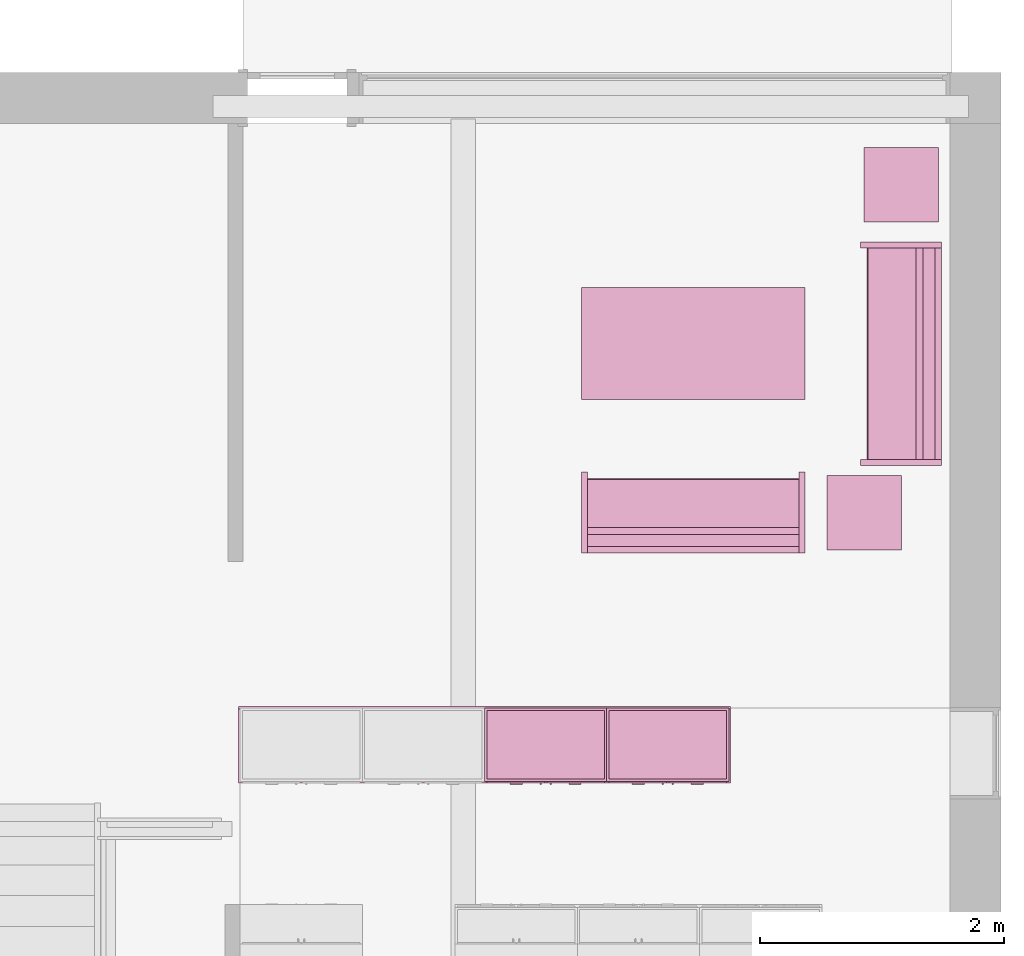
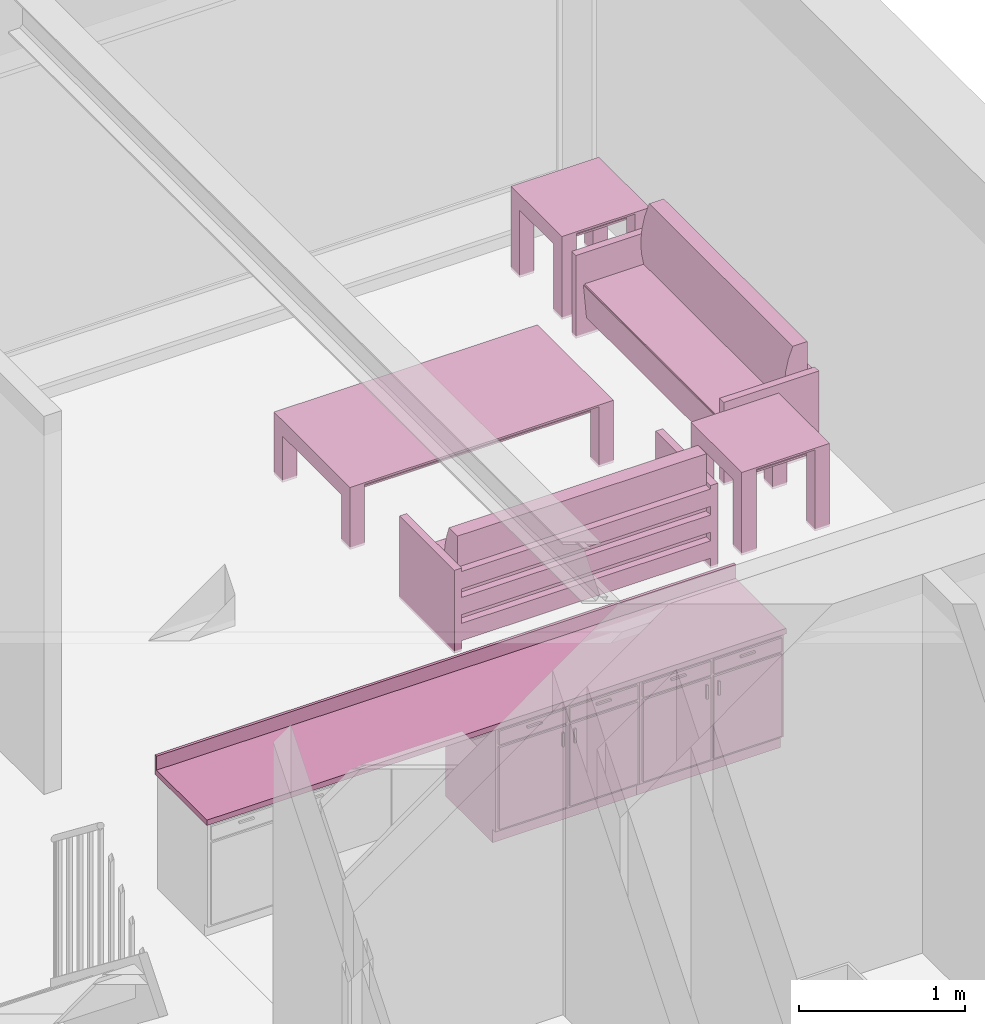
# One storey, part 17 of 18: 8 furnishings.
"""IFC4 building model written with IfcOpenShell, lengths in metres."""

from ifc_helpers import new_model, entity, si_unit, converted_unit, frame, origin, origin_2d_with_axis, place, context, project, spatial, polyline, rectangle, outline, extrude, face_set, surface_model, source, transform, mapped, type_object, type_shapes, element, save


model = new_model("IFC4")

# Units and contexts
model_context = context("Model", 3, precision=1e-09, world=origin())
plan_context = context("Plan", 3, precision=1e-09, world=origin())
ifc_project = project(units=[si_unit("LENGTHUNIT", "METRE"), si_unit("AREAUNIT", "SQUARE_METRE"), si_unit("VOLUMEUNIT", "CUBIC_METRE"), converted_unit("PLANEANGLEUNIT", "DEGREE", entity("IfcRatioMeasure", 0.01745329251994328), si_unit("PLANEANGLEUNIT", "RADIAN"), dimensions=[0, 0, 0, 0, 0, 0, 0]), si_unit("TIMEUNIT", "SECOND")], contexts=[model_context, plan_context])

# Site, building, storey, space
site_placement = place(None, origin())
site = spatial("IfcSite", under=ifc_project, at=site_placement, Name="Default", CompositionType="ELEMENT")
building_placement = place(site_placement, origin())
building = spatial("IfcBuilding", under=site, at=building_placement, CompositionType="ELEMENT")
storey_placement = place(building_placement, origin())
storey = spatial("IfcBuildingStorey", under=building, at=storey_placement, Name="Level 1", CompositionType="ELEMENT", Elevation=0.0)
space_1_placement = place(storey_placement, origin())
space_1 = spatial("IfcSpace", under=storey, at=space_1_placement, Name="B103", CompositionType="ELEMENT", PredefinedType="SPACE")

# Furnishings
furniture_type_1 = type_object("IfcFurnitureType", Name="1000mm", AssemblyPlace="NOTDEFINED")
shared_shape_1 = source(origin(), model_context, "Body", "SurfaceModel", [
    surface_model("IfcFaceBasedSurfaceModel", [(0.9809499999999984, 0.04445000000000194, 0.8600000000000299), (0.9809499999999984, 0.04445000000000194, 0.0999999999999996), (0.01905000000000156, 0.04445000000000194, 0.0999999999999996), (0.01905000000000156, 0.04445000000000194, 0.8600000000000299), (1.0, 0.02540000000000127, 0.8600000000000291), (0.0, 0.02540000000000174, 0.8600000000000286), (1.0, 0.02540000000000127, 0.0999999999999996), (0.0, 0.02540000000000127, 0.09999999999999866), (0.01905000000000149, 0.606349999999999, 0.8600000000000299), (0.01905000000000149, 0.606349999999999, 0.09999999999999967), (0.01905000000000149, 0.06040000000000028, 0.0999999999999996), (0.0, 0.6253999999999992, 0.8600000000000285), (0.0, 0.6254000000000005, 0.0), (0.0, 0.06040000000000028, 0.0), (0.0, 0.06040000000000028, 0.09999999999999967), (0.9809499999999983, 0.6063499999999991, 0.8600000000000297), (0.9809499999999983, 0.6063499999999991, 0.09999999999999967), (1.0, 0.6253999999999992, 0.8600000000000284), (1.0, 0.6253999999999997, 0.0), (0.9809499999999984, 0.06040000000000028, 0.09999999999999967), (1.0, 0.06040000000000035, 0.09999999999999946), (1.0, 0.06040000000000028, 0.0), (0.3103250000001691, 0.0, 0.815550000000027), (0.3103250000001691, 0.0, 0.8028500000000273), (0.2087250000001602, 0.0, 0.8028500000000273), (0.2087250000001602, 0.0, 0.815550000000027), (0.7912750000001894, 0.0, 0.815550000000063), (0.7912750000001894, 0.0, 0.8028500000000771), (0.6896750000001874, 0.0, 0.8028500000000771), (0.6896750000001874, 0.0, 0.815550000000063), (0.4650750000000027, 0.0, 0.6822000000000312), (0.4650750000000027, 0.0, 0.5806000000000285), (0.4523750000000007, 0.0, 0.5806000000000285), (0.4523750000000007, 0.0, 0.6822000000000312), (0.5476249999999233, 0.0, 0.6822000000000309), (0.5476249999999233, 0.0, 0.5806000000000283), (0.5349249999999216, 0.0, 0.5806000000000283), (0.5349249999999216, 0.0, 0.6822000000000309), (0.3103250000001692, 0.01270000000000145, 0.815550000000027), (0.3103250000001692, 0.01270000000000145, 0.8028500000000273), (0.2087250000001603, 0.01270000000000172, 0.8028500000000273), (0.2087250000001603, 0.01270000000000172, 0.815550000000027), (0.7912750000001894, 0.01269999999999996, 0.815550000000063), (0.7912750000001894, 0.01269999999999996, 0.8028500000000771), (0.6896750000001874, 0.01270000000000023, 0.8028500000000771), (0.6896750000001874, 0.01270000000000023, 0.815550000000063), (0.4650750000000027, 0.0127000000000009, 0.6822000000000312), (0.4650750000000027, 0.0127000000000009, 0.5806000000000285), (0.4523750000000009, 0.0127000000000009, 0.5806000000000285), (0.4523750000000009, 0.0127000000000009, 0.6822000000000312), (0.5476249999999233, 0.01270000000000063, 0.6822000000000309), (0.5476249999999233, 0.01270000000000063, 0.5806000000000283), (0.5349249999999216, 0.01270000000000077, 0.5806000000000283), (0.5349249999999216, 0.01270000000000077, 0.6822000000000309), (0.4904749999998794, 0.0127000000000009, 0.840950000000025), (0.4904749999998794, 0.0127000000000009, 0.7393500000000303), (0.01905000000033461, 0.01270000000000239, 0.7393500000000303), (0.01905000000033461, 0.01270000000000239, 0.840950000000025), (0.9809500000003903, 0.01269999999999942, 0.8409500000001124), (0.9809500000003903, 0.01269999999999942, 0.7393500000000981), (0.509524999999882, 0.0127000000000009, 0.7393500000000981), (0.509524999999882, 0.0127000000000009, 0.8409500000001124), (0.4904749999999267, 0.0127000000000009, 0.7203000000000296), (0.4904749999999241, 0.0127000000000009, 0.119049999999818), (0.01905000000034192, 0.01270000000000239, 0.119049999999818), (0.01905000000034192, 0.01270000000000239, 0.7203000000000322), (0.9809500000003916, 0.01269999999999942, 0.7203000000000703), (0.9809500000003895, 0.01269999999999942, 0.1190499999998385), (0.5095249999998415, 0.0127000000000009, 0.1190499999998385), (0.5095249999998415, 0.0127000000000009, 0.7203000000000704), (0.4904749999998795, 0.02540000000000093, 0.840950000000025), (0.4904749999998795, 0.02540000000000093, 0.7393500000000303), (0.01905000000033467, 0.02540000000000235, 0.7393500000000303), (0.01905000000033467, 0.02540000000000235, 0.840950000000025), (0.9809500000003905, 0.02539999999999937, 0.8409500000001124), (0.9809500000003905, 0.02539999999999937, 0.7393500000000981), (0.5095249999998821, 0.02540000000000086, 0.7393500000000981), (0.5095249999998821, 0.02540000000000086, 0.8409500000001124), (0.4904749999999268, 0.02540000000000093, 0.7203000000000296), (0.4904749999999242, 0.02540000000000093, 0.119049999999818), (0.01905000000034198, 0.02540000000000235, 0.119049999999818), (0.01905000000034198, 0.02540000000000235, 0.7203000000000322), (0.9809500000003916, 0.02539999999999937, 0.7203000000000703), (0.9809500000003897, 0.02539999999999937, 0.1190499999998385), (0.5095249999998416, 0.02540000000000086, 0.1190499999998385), (0.5095249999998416, 0.02540000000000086, 0.7203000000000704), (0.9809499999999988, 0.6063499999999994, 0.1190499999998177), (0.9809499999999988, 0.04445000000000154, 0.1190499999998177), (0.01905000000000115, 0.04445000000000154, 0.1190499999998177), (0.01905000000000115, 0.6063499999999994, 0.1190499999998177), (0.9809499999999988, 0.6063499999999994, 0.09999999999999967), (0.9809499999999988, 0.04445000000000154, 0.09999999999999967), (0.01905000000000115, 0.04445000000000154, 0.09999999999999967), (0.01905000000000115, 0.6063499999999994, 0.09999999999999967)], [face_set([[[0, 1, 2, 3]], [[0, 4, 5, 3]], [[4, 6, 7, 5]], [[2, 1, 6, 7]], [[3, 8, 9, 10, 2]], [[5, 11, 8, 3]], [[7, 5, 11, 12, 13, 14]], [[2, 7, 14, 10]], [[8, 15, 16, 9]], [[11, 17, 15, 8]], [[12, 11, 17, 18]], [[1, 19, 16, 15, 0]], [[0, 15, 17, 4]], [[4, 6, 20, 21, 18, 17]], [[6, 1, 19, 20]], [[10, 9, 16, 19]], [[18, 21, 13, 12]], [[13, 14, 10, 19, 20, 21]]]), face_set([[[22, 23, 24, 25]], [[26, 27, 28, 29]], [[30, 31, 32, 33]], [[34, 35, 36, 37]], [[38, 39, 40, 41]], [[42, 43, 44, 45]], [[46, 47, 48, 49]], [[50, 51, 52, 53]], [[25, 41, 38, 22]], [[24, 40, 41, 25]], [[23, 24, 40, 39]], [[22, 23, 39, 38]], [[29, 45, 42, 26]], [[28, 44, 45, 29]], [[27, 28, 44, 43]], [[26, 27, 43, 42]], [[33, 49, 46, 30]], [[32, 48, 49, 33]], [[31, 32, 48, 47]], [[30, 31, 47, 46]], [[37, 53, 50, 34]], [[36, 52, 53, 37]], [[35, 36, 52, 51]], [[34, 35, 51, 50]]]), face_set([[[54, 55, 56, 57]], [[58, 59, 60, 61]], [[62, 63, 64, 65]], [[66, 67, 68, 69]], [[70, 71, 72, 73]], [[74, 75, 76, 77]], [[78, 79, 80, 81]], [[82, 83, 84, 85]], [[57, 73, 70, 54]], [[56, 57, 73, 72]], [[55, 56, 72, 71]], [[54, 55, 71, 70]], [[61, 77, 74, 58]], [[60, 76, 77, 61]], [[59, 60, 76, 75]], [[58, 59, 75, 74]], [[65, 81, 78, 62]], [[64, 65, 81, 80]], [[63, 64, 80, 79]], [[62, 63, 79, 78]], [[69, 85, 82, 66]], [[68, 84, 85, 69]], [[67, 68, 84, 83]], [[66, 67, 83, 82]]]), face_set([[[86, 87, 88, 89]], [[90, 91, 92, 93]], [[89, 86, 90, 93]], [[88, 89, 93, 92]], [[87, 91, 92, 88]], [[86, 87, 91, 90]]])]),
])
type_shapes(furniture_type_1, [shared_shape_1])
for number, where in (
    (1, (4.574000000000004, -5.82540000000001, 0.0)),
    (2, (5.574000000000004, -5.825400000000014, 0.0)),
):
    element("IfcFurnishingElement", number, at=place(space_1_placement, frame(where)), inside=space_1, type_object=furniture_type_1, Name="M_Base Cabinet-Double Door & 2 Drawer:1000mm:1000mm", ObjectType="1000mm", context=model_context, shape_type="MappedRepresentation", body=[
        mapped(shared_shape_1, transform((0.0, 0.0, 0.0), scale=1.0)),
    ])
furniture_type_2 = type_object("IfcFurnitureType", Name="600mm Depth", AssemblyPlace="NOTDEFINED")
shared_shape_2 = source(origin(), model_context, "Body", "SweptSolid", [
    extrude(rectangle(XDim=0.01905000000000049, YDim=4.023999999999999, at=origin_2d_with_axis()), frame((0.8115377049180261, -0.009525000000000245, 0.8999999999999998), z_axis=(0.0, 0.0, 1.0), x_axis=(0.0, -1.0, 0.0)), (0.0, 0.0, 1.0), 0.1016000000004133),
    extrude(rectangle(XDim=4.023999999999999, YDim=0.6249999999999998, at=origin_2d_with_axis()), frame((0.8115377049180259, -0.3124999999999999, 0.8600000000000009), z_axis=(0.0, 0.0, 1.0), x_axis=(-1.0, 0.0, 0.0)), (0.0, 0.0, 1.0), 0.03999999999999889),
])
type_shapes(furniture_type_2, [shared_shape_2])
furnishing_1_placement = place(space_1_placement, frame((3.76246229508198, -5.188000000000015, 0.0)))
element("IfcFurnishingElement", 3, at=furnishing_1_placement, inside=space_1, type_object=furniture_type_2, Name="M_Counter Top:600mm Depth:600mm Depth", ObjectType="600mm Depth", context=model_context, shape_type="MappedRepresentation", body=[
    mapped(shared_shape_2, transform((0.0, 0.0, 0.0), scale=1.0)),
])

# Space
space_2_placement = place(storey_placement, origin())
space_2 = spatial("IfcSpace", under=storey, at=space_2_placement, Name="B102", CompositionType="ELEMENT", PredefinedType="SPACE")

# Furnishings
furniture_type_3 = type_object("IfcFurnitureType", Name="1830mm", AssemblyPlace="NOTDEFINED")
shared_shape_3 = source(origin(), model_context, "Body", "SurfaceModel", [
    surface_model("IfcFaceBasedSurfaceModel", [(0.0507999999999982, 0.6095999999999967, 0.5842), (0.05079999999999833, 0.6603999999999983, 0.5842), (0.05079999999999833, 0.6603999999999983, 0.4572000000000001), (0.0507999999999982, 0.6095999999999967, 0.4572000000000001), (0.0507999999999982, 0.6095999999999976, 0.3937000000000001), (0.05079999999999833, 0.6603999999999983, 0.3937000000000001), (0.05079999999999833, 0.6603999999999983, 0.2667), (0.0507999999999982, 0.6095999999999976, 0.2667), (0.0507999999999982, 0.6096000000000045, 0.2032), (0.05079999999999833, 0.6603999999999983, 0.2032), (0.05079999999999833, 0.6603999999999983, 0.0762), (0.0507999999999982, 0.6096000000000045, 0.0762), (1.779199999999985, 0.6095999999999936, 0.5842), (1.779199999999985, 0.6095999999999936, 0.4572000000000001), (1.779199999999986, 0.6603999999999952, 0.4572000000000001), (1.779199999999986, 0.6603999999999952, 0.5842), (1.779199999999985, 0.6095999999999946, 0.3937000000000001), (1.779199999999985, 0.6095999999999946, 0.2667), (1.779199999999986, 0.6603999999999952, 0.2667), (1.779199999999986, 0.6603999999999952, 0.3937000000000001), (1.779199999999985, 0.6096000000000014, 0.2032), (1.779199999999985, 0.6096000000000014, 0.0762), (1.779199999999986, 0.6603999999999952, 0.0762), (1.779199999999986, 0.6603999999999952, 0.2032), (0.05079999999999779, 0.4702223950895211, 0.3809999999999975), (0.05079999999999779, 0.4544013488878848, 0.4678311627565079), (0.05079999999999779, 0.4503004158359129, 0.5559965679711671), (0.05079999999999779, 0.4579928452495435, 0.6439214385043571), (0.05079999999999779, 0.4773412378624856, 0.7300352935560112), (0.05079999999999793, 0.5079999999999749, 0.8127999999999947), (0.05079999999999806, 0.6095999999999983, 0.8127999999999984), (0.05079999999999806, 0.6095999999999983, 0.1279665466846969), (0.05079999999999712, 0.07293755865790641, 0.1279665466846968), (0.05079999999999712, 0.05200794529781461, 0.367193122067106), (0.05079999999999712, 0.0526336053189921, 0.3723822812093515), (0.05079999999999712, 0.05529619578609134, 0.3768799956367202), (0.05079999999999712, 0.05954473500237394, 0.3799244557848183), (0.05079999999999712, 0.06465961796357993, 0.3810000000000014), (1.779199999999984, 0.4702223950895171, 0.3810000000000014), (1.779199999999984, 0.06465961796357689, 0.3810000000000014), (1.779199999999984, 0.05954473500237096, 0.3799244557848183), (1.779199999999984, 0.05529619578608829, 0.3768799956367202), (1.779199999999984, 0.05263360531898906, 0.3723822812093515), (1.779199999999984, 0.05200794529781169, 0.3671931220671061), (1.779199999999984, 0.07293755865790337, 0.1279665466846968), (1.779199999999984, 0.6095999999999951, 0.1279665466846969), (1.779199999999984, 0.6095999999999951, 0.8127999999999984), (1.779199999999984, 0.5079999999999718, 0.8127999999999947), (1.779199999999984, 0.4773412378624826, 0.7300352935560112), (1.779199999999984, 0.4579928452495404, 0.6439214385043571), (1.779199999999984, 0.4503004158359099, 0.5559965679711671), (1.779199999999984, 0.4544013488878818, 0.4678311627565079), (0.05079998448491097, 0.05396489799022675, 0.3746311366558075), (1.779199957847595, 0.05396489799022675, 0.3746311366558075), (0.05079998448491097, 0.05232077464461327, 0.369787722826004), (1.779199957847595, 0.05232077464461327, 0.369787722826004), (1.779199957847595, 0.06210217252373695, 0.3804622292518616), (0.05079998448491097, 0.0621788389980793, 0.3804783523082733), (1.779199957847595, 0.05742046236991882, 0.3784022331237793), (0.05079998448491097, 0.05742046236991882, 0.3784022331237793), (0.05079999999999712, 0.6603999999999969, 0.6096), (0.05079999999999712, 0.0, 0.6096), (0.0, 0.0, 0.6096), (0.0, 0.6603999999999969, 0.6096), (1.829999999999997, 0.6604000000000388, 0.6096), (1.829999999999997, 0.0, 0.6096), (1.779199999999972, 0.0, 0.6096), (1.779199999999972, 0.6604000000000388, 0.6096), (0.05079999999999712, 0.6603999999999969, 0.0), (0.05079999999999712, 0.0, 0.0), (0.0, 0.0, 0.0), (0.0, 0.6603999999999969, 0.0), (1.829999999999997, 0.6604000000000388, 0.0), (1.829999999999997, 0.0, 0.0), (1.779199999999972, 0.0, 0.0), (1.779199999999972, 0.6604000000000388, 0.0)], [face_set([[[0, 1, 2, 3]], [[4, 5, 6, 7]], [[8, 9, 10, 11]], [[12, 13, 14, 15]], [[16, 17, 18, 19]], [[20, 21, 22, 23]], [[1, 15, 12, 0]], [[2, 14, 15, 1]], [[3, 2, 14, 13]], [[0, 3, 13, 12]], [[5, 19, 16, 4]], [[6, 18, 19, 5]], [[7, 6, 18, 17]], [[4, 7, 17, 16]], [[9, 23, 20, 8]], [[10, 22, 23, 9]], [[11, 10, 22, 21]], [[8, 11, 21, 20]]]), face_set([[[24, 25, 26, 27, 28, 29, 30, 31, 32, 33, 34, 35, 36, 37]], [[38, 39, 40, 41, 42, 43, 44, 45, 46, 47, 48, 49, 50, 51]], [[24, 25, 51, 38]], [[25, 26, 50, 51]], [[49, 50, 26, 27]], [[27, 28, 48, 49]], [[28, 29, 47, 48]], [[30, 46, 47, 29]], [[31, 30, 46, 45]], [[32, 31, 45, 44]], [[33, 32, 44, 43]], [[41, 35, 52, 53]], [[54, 55, 42, 34]], [[33, 43, 55, 54]], [[34, 42, 53, 52]], [[39, 56, 57]], [[35, 41, 58, 59]], [[56, 40, 36]], [[57, 37, 39]], [[57, 56, 36]], [[40, 36, 59, 58]], [[24, 38, 39, 37]]]), face_set([[[60, 61, 62, 63]], [[64, 65, 66, 67]], [[68, 69, 70, 71]], [[72, 73, 74, 75]], [[63, 60, 68, 71]], [[62, 63, 71, 70]], [[61, 62, 70, 69]], [[60, 68, 69, 61]], [[67, 64, 72, 75]], [[66, 74, 75, 67]], [[65, 66, 74, 73]], [[64, 65, 73, 72]]])]),
])
type_shapes(furniture_type_3, [shared_shape_3])
for number, where, z_axis, x_axis, name in (
    (4, (7.652800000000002, -1.385000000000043, 0.0), (0.0, 0.0, 1.0), (0.0, -1.0, 0.0), "M_Sofa:1830mm:1830mm"),
    (5, (7.197999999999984, -3.269800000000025, 0.0), (0.0, 0.0, 1.0), (-1.0, 0.0, 0.0), "M_Sofa:1830mm:1830mm"),
):
    element("IfcFurnishingElement", number, at=place(space_2_placement, frame(where, z_axis=z_axis, x_axis=x_axis)), inside=space_2, type_object=furniture_type_3, Name=name, ObjectType="1830mm", context=model_context, shape_type="MappedRepresentation", body=[
        mapped(shared_shape_3, transform((0.0, 0.0, 0.0), scale=1.0)),
    ])
furniture_type_4 = type_object("IfcFurnitureType", Name="0610 x 0610 x 0610mm", AssemblyPlace="NOTDEFINED")
shared_shape_4 = source(origin(), model_context, "Body", "SweptSolid", [
    extrude(rectangle(XDim=0.4067999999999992, YDim=0.4067999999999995, at=origin_2d_with_axis()), frame((0.01826576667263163, 0.09521107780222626, 0.4957000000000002), z_axis=(0.0, 0.0, 1.0), x_axis=(-1.0, 0.0, 0.0)), (0.0, 0.0, 1.0), 0.01270000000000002),
    extrude(outline(polyline([(-0.2732499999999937, -0.3050000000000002), (0.3240499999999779, -0.3050000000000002), (0.3240499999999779, 0.3049999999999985), (-0.2732499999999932, 0.3049999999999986), (-0.2732499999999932, 0.2034000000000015), (0.2224500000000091, 0.2034000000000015), (0.2224500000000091, -0.2033999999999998), (-0.2732499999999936, -0.2033999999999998), (-0.2732499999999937, -0.3050000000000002)])), frame((0.2216657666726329, 0.09521107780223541, 0.2732499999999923), z_axis=(1.0, 0.0, 0.0), x_axis=(0.0, 0.0, 1.0)), (0.0, 0.0, 1.0), 0.1016),
    extrude(outline(polyline([(-0.3050000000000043, -0.3240500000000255), (0.3049999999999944, -0.3240500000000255), (0.3049999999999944, 0.2732500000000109), (0.2034000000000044, 0.2732500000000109), (0.2034000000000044, -0.2224499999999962), (-0.2033999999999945, -0.2224499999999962), (-0.2033999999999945, 0.2732500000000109), (-0.3050000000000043, 0.2732500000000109), (-0.3050000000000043, -0.3240500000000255)])), frame((-0.2867342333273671, 0.09521107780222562, 0.2732500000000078), z_axis=(1.0, 0.0, 0.0), x_axis=(0.0, -1.0, 0.0)), (0.0, 0.0, 1.0), 0.1016),
    extrude(rectangle(XDim=0.4067999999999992, YDim=0.4067999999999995, at=origin_2d_with_axis()), frame((0.01826576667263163, 0.09521107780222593, 0.5973000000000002), z_axis=(0.0, 0.0, 1.0), x_axis=(-1.0, 0.0, 0.0)), (0.0, 0.0, 1.0), 0.01270000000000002),
    extrude(outline(polyline([(-0.3050000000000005, -0.3050000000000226), (0.3050000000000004, -0.3050000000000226), (0.3050000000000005, 0.3050000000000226), (-0.3050000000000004, 0.3050000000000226), (-0.3050000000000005, -0.3050000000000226)]), holes=[polyline([(-0.203399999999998, -0.2033999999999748), (-0.2033999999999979, 0.2034000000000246), (0.2034000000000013, 0.2034000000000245), (0.2034000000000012, -0.2033999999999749), (-0.203399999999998, -0.2033999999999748)])]), frame((0.01826576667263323, 0.09521107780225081, 0.5973000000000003), z_axis=(0.0, 0.0, 1.0), x_axis=(-1.0, 0.0, 0.0)), (0.0, 0.0, 1.0), 0.01269999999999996),
])
type_shapes(furniture_type_4, [shared_shape_4])
for number, where, name in (
    (6, (7.664734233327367, -3.695211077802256, 0.0), "M_Table-Coffee:0610 x 0610 x 0610mm:0610 x 0610 x 0610mm"),
    (7, (7.964734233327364, -1.012211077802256, 0.0), "M_Table-Coffee:0610 x 0610 x 0610mm:0610 x 0610 x 0610mm"),
):
    element("IfcFurnishingElement", number, at=place(space_2_placement, frame(where)), inside=space_2, type_object=furniture_type_4, Name=name, ObjectType="0610 x 0610 x 0610mm", context=model_context, shape_type="MappedRepresentation", body=[
        mapped(shared_shape_4, transform((0.0, 0.0, 0.0), scale=1.0)),
    ])
furniture_type_5 = type_object("IfcFurnitureType", Name="0915 x 1830 x 0457mm", AssemblyPlace="NOTDEFINED")
shared_shape_5 = source(origin(), model_context, "Body", "SweptSolid", [
    extrude(rectangle(XDim=1.626799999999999, YDim=0.7117999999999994, at=origin_2d_with_axis()), frame((0.01826576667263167, 0.0952110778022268, 0.3427000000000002), z_axis=(0.0, 0.0, 1.0), x_axis=(-1.0, 0.0, 0.0)), (0.0, 0.0, 1.0), 0.01270000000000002),
    extrude(outline(polyline([(-0.1967499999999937, -0.4575000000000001), (0.2475499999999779, -0.4575000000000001), (0.2475499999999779, 0.4574999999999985), (-0.1967499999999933, 0.4574999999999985), (-0.1967499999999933, 0.3559000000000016), (0.145950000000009, 0.3559000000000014), (0.145950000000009, -0.3558999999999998), (-0.1967499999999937, -0.3558999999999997), (-0.1967499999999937, -0.4575000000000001)])), frame((0.8316657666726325, 0.09521107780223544, 0.1967499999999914), z_axis=(1.0, 0.0, 0.0), x_axis=(0.0, 0.0, 1.0)), (0.0, 0.0, 1.0), 0.1016000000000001),
    extrude(outline(polyline([(-0.4575000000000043, -0.2475500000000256), (0.4574999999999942, -0.2475500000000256), (0.4574999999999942, 0.1967500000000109), (0.3559000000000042, 0.1967500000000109), (0.3559000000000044, -0.1459499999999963), (-0.3558999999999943, -0.1459499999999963), (-0.3558999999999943, 0.1967500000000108), (-0.4575000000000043, 0.1967500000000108), (-0.4575000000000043, -0.2475500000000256)])), frame((-0.8967342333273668, 0.09521107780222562, 0.1967500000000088), z_axis=(1.0, 0.0, 0.0), x_axis=(0.0, -1.0, 0.0)), (0.0, 0.0, 1.0), 0.1016000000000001),
    extrude(rectangle(XDim=1.626799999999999, YDim=0.7117999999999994, at=origin_2d_with_axis()), frame((0.01826576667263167, 0.09521107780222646, 0.4443000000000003), z_axis=(0.0, 0.0, 1.0), x_axis=(-1.0, 0.0, 0.0)), (0.0, 0.0, 1.0), 0.01270000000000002),
    extrude(outline(polyline([(-0.9150000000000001, -0.4575000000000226), (0.9150000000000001, -0.4575000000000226), (0.9150000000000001, 0.4575000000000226), (-0.9150000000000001, 0.4575000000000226), (-0.9150000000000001, -0.4575000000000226)]), holes=[polyline([(-0.8133999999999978, -0.3558999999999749), (-0.8133999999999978, 0.3559000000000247), (0.8134000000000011, 0.3559000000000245), (0.8134000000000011, -0.3558999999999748), (-0.8133999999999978, -0.3558999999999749)])]), frame((0.01826576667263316, 0.09521107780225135, 0.4443000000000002), z_axis=(0.0, 0.0, 1.0), x_axis=(-1.0, 0.0, 0.0)), (0.0, 0.0, 1.0), 0.01270000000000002),
])
type_shapes(furniture_type_5, [shared_shape_5])
furnishing_2_placement = place(space_2_placement, frame((6.264734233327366, -2.312211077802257, 0.0)))
element("IfcFurnishingElement", 8, at=furnishing_2_placement, inside=space_2, type_object=furniture_type_5, Name="M_Table-Coffee:0915 x 1830 x 0457mm:0915 x 1830 x 0457mm", ObjectType="0915 x 1830 x 0457mm", context=model_context, shape_type="MappedRepresentation", body=[
    mapped(shared_shape_5, transform((0.0, 0.0, 0.0), scale=1.0)),
])

save(model, "model.ifc")
